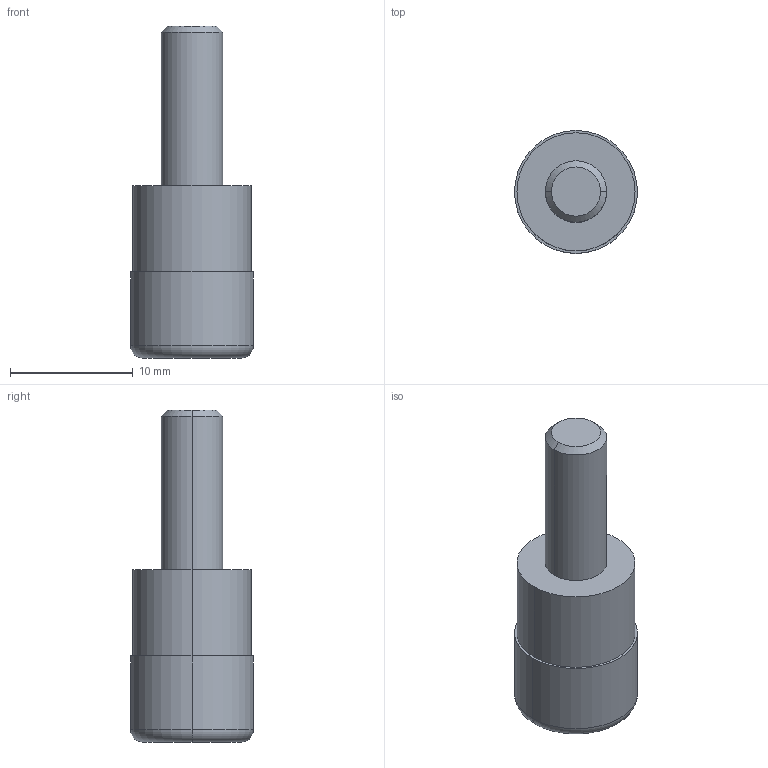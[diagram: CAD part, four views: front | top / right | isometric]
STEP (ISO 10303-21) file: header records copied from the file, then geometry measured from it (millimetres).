
FILE_DESCRIPTION (( 'STEP AP214' ), '1' );
FILE_NAME ('38.313.101_3D-model.step', '2022-02-15T20:40:37', ( '' ), ( '' ), 'SwSTEP 2.0', 'SolidWorks 2020', '' );
FILE_SCHEMA (( 'AUTOMOTIVE_DESIGN' ));
Length unit declared in the file: millimetre
Products named in the file (3): 38.313.101_3D-model; NOCUT-3D^Baugr122; CUT-3D^Baugr122
Assembly tree (2 placements, depth 2):
  38.313.101_3D-model
    CUT-3D^Baugr122
    NOCUT-3D^Baugr122
Bounding box: 10 x 10 x 27 mm (x, y, z)
Volume: 1303.4 mm3; surface area: 918.2 mm2
Topology: 2 solids, 2 shells, 15 faces, 26 edges, 16 vertices
Faces by surface type: cylinder 6, plane 5, torus 2, cone 2
Entity records: 488 total; most frequent: DIRECTION 90, CARTESIAN_POINT 65, ORIENTED_EDGE 52, AXIS2_PLACEMENT_3D 41, EDGE_CURVE 26, CIRCLE 18, EDGE_LOOP 16, VERTEX_POINT 16
